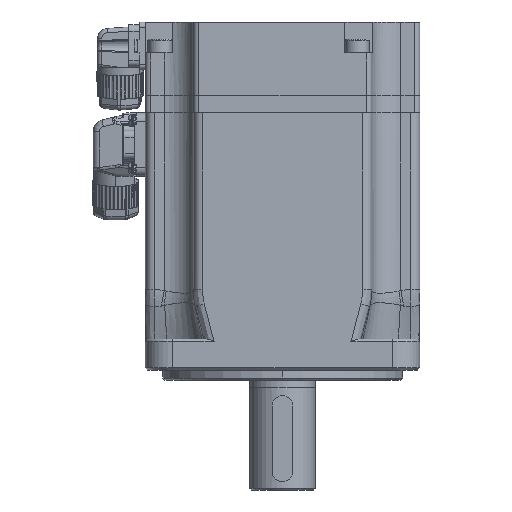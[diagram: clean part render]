
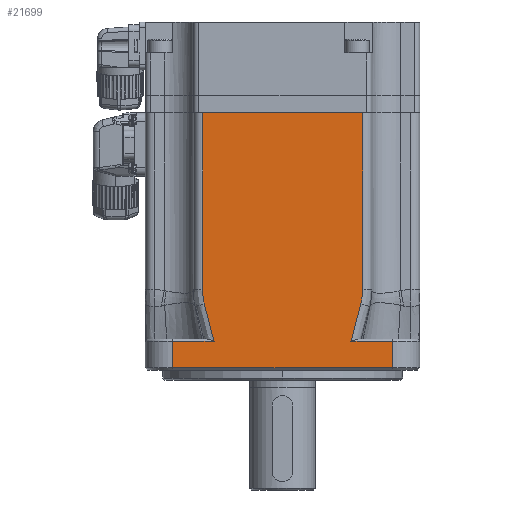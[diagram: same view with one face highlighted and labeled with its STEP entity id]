
A CAD part, left-side view. The second image highlights one B-rep face of the part: STEP entity #21699.
In plain terms, the highlighted planar face has unit normal (-1, 0, 0).
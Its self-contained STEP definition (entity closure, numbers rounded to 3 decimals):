
#94 = ORIENTED_EDGE ( 'NONE', *, *, #15060, .F. ) ;
#924 = CARTESIAN_POINT ( 'NONE',  ( -40., 40., -36. ) ) ;
#4643 = CARTESIAN_POINT ( 'NONE',  ( -40., 23.213, -14.542 ) ) ;
#4820 = EDGE_CURVE ( 'NONE', #63381, #49767, #98715, .T. ) ;
#5954 = DIRECTION ( 'NONE',  ( 0., 0., -1. ) ) ;
#8057 = EDGE_LOOP ( 'NONE', ( #41085, #88585, #107773, #66446, #108582, #26712, #8788, #70355, #94, #118312, #36447, #27845 ) ) ;
#8526 = CARTESIAN_POINT ( 'NONE',  ( -40., -23.333, -12.461 ) ) ;
#8788 = ORIENTED_EDGE ( 'NONE', *, *, #37536, .T. ) ;
#10516 = EDGE_CURVE ( 'NONE', #118963, #107304, #67612, .T. ) ;
#11054 = EDGE_CURVE ( 'NONE', #125722, #63381, #43774, .T. ) ;
#13150 = AXIS2_PLACEMENT_3D ( 'NONE', #924, #40619, #70541 ) ;
#15060 = EDGE_CURVE ( 'NONE', #85419, #94679, #125717, .T. ) ;
#18299 = CARTESIAN_POINT ( 'NONE',  ( -40., -22.844, -16.56 ) ) ;
#21699 = ADVANCED_FACE ( 'NONE', ( #120027 ), #99855, .T. ) ;
#21936 = CARTESIAN_POINT ( 'NONE',  ( -40., 20.29, -26.414 ) ) ;
#23086 = LINE ( 'NONE', #92107, #56533 ) ;
#23566 = LINE ( 'NONE', #93227, #108630 ) ;
#23623 = CARTESIAN_POINT ( 'NONE',  ( -40., -20.29, -26.414 ) ) ;
#24833 = CARTESIAN_POINT ( 'NONE',  ( -40., 22.972, -16.014 ) ) ;
#25476 = CARTESIAN_POINT ( 'NONE',  ( -40., 23.333, -12.71 ) ) ;
#26429 = CARTESIAN_POINT ( 'NONE',  ( -40., 32., -36. ) ) ;
#26712 = ORIENTED_EDGE ( 'NONE', *, *, #102206, .T. ) ;
#26765 = CARTESIAN_POINT ( 'NONE',  ( -40., -23.333, 39. ) ) ;
#27845 = ORIENTED_EDGE ( 'NONE', *, *, #127024, .T. ) ;
#28571 = CARTESIAN_POINT ( 'NONE',  ( -40., 23.333, 39. ) ) ;
#29076 = DIRECTION ( 'NONE',  ( 0., 1., 0. ) ) ;
#30267 = DIRECTION ( 'NONE',  ( 0., -1., 0. ) ) ;
#30941 = EDGE_CURVE ( 'NONE', #33344, #94679, #98785, .T. ) ;
#31709 = CARTESIAN_POINT ( 'NONE',  ( -40., 22.782, -16.802 ) ) ;
#33271 = CARTESIAN_POINT ( 'NONE',  ( -40., 22.782, -16.802 ) ) ;
#33344 = VERTEX_POINT ( 'NONE', #99032 ) ;
#33651 = CARTESIAN_POINT ( 'NONE',  ( -40., -19.965, -27.667 ) ) ;
#33653 = DIRECTION ( 'NONE',  ( 0., 1., 0. ) ) ;
#34605 = CARTESIAN_POINT ( 'NONE',  ( -40., 23.112, -15.257 ) ) ;
#35319 = CARTESIAN_POINT ( 'NONE',  ( -40., -22.482, -17.962 ) ) ;
#36217 = VERTEX_POINT ( 'NONE', #69608 ) ;
#36447 = ORIENTED_EDGE ( 'NONE', *, *, #10516, .T. ) ;
#37536 = EDGE_CURVE ( 'NONE', #95677, #33344, #42547, .T. ) ;
#38988 = DIRECTION ( 'NONE',  ( 0., 0., -1. ) ) ;
#39133 = CARTESIAN_POINT ( 'NONE',  ( -40., -23.333, -12.735 ) ) ;
#40619 = DIRECTION ( 'NONE',  ( -1., 0., 0. ) ) ;
#41085 = ORIENTED_EDGE ( 'NONE', *, *, #11054, .T. ) ;
#42547 = B_SPLINE_CURVE_WITH_KNOTS ( 'NONE', 3,
 ( #43800, #23623, #43159, #104318, #35319, #101721 ),
 .UNSPECIFIED., .F., .F.,
 ( 4, 1, 1, 4 ),
 ( 0., 0.333, 0.667, 1. ),
 .UNSPECIFIED. ) ;
#43159 = CARTESIAN_POINT ( 'NONE',  ( -40., -20.933, -23.94 ) ) ;
#43176 = EDGE_CURVE ( 'NONE', #49767, #36217, #93522, .T. ) ;
#43774 = B_SPLINE_CURVE_WITH_KNOTS ( 'NONE', 3,
 ( #31709, #49942, #71401, #111108, #21936, #61631 ),
 .UNSPECIFIED., .F., .F.,
 ( 4, 1, 1, 4 ),
 ( 0., 0.333, 0.667, 1. ),
 .UNSPECIFIED. ) ;
#43800 = CARTESIAN_POINT ( 'NONE',  ( -40., -19.965, -27.667 ) ) ;
#44092 = VECTOR ( 'NONE', #29076, 1000. ) ;
#44382 = CARTESIAN_POINT ( 'NONE',  ( -40., 22.782, -16.802 ) ) ;
#47624 = CARTESIAN_POINT ( 'NONE',  ( -40., -32., -35.333 ) ) ;
#47952 = CARTESIAN_POINT ( 'NONE',  ( -40., 40., -27.667 ) ) ;
#49695 = VECTOR ( 'NONE', #116646, 1000. ) ;
#49767 = VERTEX_POINT ( 'NONE', #83948 ) ;
#49942 = CARTESIAN_POINT ( 'NONE',  ( -40., 22.482, -17.962 ) ) ;
#51003 = CARTESIAN_POINT ( 'NONE',  ( -40., 23.333, -12.461 ) ) ;
#53122 = CARTESIAN_POINT ( 'NONE',  ( -40., 23.333, 39. ) ) ;
#53168 = CARTESIAN_POINT ( 'NONE',  ( -40., 40., -27.667 ) ) ;
#54764 = CARTESIAN_POINT ( 'NONE',  ( -40., 22.851, -16.536 ) ) ;
#55322 = CARTESIAN_POINT ( 'NONE',  ( -40., -23.333, 39. ) ) ;
#55722 = DIRECTION ( 'NONE',  ( 0., 0., -1. ) ) ;
#56533 = VECTOR ( 'NONE', #120748, 1000. ) ;
#57357 = CARTESIAN_POINT ( 'NONE',  ( -40., -23.083, -15.421 ) ) ;
#61631 = CARTESIAN_POINT ( 'NONE',  ( -40., 19.965, -27.667 ) ) ;
#63381 = VERTEX_POINT ( 'NONE', #92859 ) ;
#65384 = VECTOR ( 'NONE', #5954, 1000. ) ;
#65796 = CARTESIAN_POINT ( 'NONE',  ( -40., 23.322, -13.196 ) ) ;
#66423 = CARTESIAN_POINT ( 'NONE',  ( -40., 23.333, -12.461 ) ) ;
#66446 = ORIENTED_EDGE ( 'NONE', *, *, #79995, .T. ) ;
#66528 = CARTESIAN_POINT ( 'NONE',  ( -40., -32., -35.333 ) ) ;
#67612 = LINE ( 'NONE', #28571, #94190 ) ;
#68395 = CARTESIAN_POINT ( 'NONE',  ( -40., -23.267, -14.039 ) ) ;
#69608 = CARTESIAN_POINT ( 'NONE',  ( -40., 32., -35.333 ) ) ;
#70355 = ORIENTED_EDGE ( 'NONE', *, *, #30941, .T. ) ;
#70541 = DIRECTION ( 'NONE',  ( 0., 0., 1. ) ) ;
#71401 = CARTESIAN_POINT ( 'NONE',  ( -40., 21.874, -20.314 ) ) ;
#78616 = CARTESIAN_POINT ( 'NONE',  ( -40., -23.333, -12.461 ) ) ;
#78839 = VERTEX_POINT ( 'NONE', #47624 ) ;
#79995 = EDGE_CURVE ( 'NONE', #36217, #78839, #86116, .T. ) ;
#83948 = CARTESIAN_POINT ( 'NONE',  ( -40., 32., -27.667 ) ) ;
#85419 = VERTEX_POINT ( 'NONE', #55322 ) ;
#86116 = LINE ( 'NONE', #66528, #49695 ) ;
#87319 = CARTESIAN_POINT ( 'NONE',  ( -40., -23.32, -13.27 ) ) ;
#88585 = ORIENTED_EDGE ( 'NONE', *, *, #4820, .T. ) ;
#92107 = CARTESIAN_POINT ( 'NONE',  ( -40., -32., -36. ) ) ;
#92859 = CARTESIAN_POINT ( 'NONE',  ( -40., 19.965, -27.667 ) ) ;
#93227 = CARTESIAN_POINT ( 'NONE',  ( -40., -23.333, 39. ) ) ;
#93522 = LINE ( 'NONE', #26429, #107710 ) ;
#93840 = CARTESIAN_POINT ( 'NONE',  ( -40., 23.28, -13.871 ) ) ;
#94190 = VECTOR ( 'NONE', #38988, 1000. ) ;
#94679 = VERTEX_POINT ( 'NONE', #78616 ) ;
#95677 = VERTEX_POINT ( 'NONE', #33651 ) ;
#97706 = CARTESIAN_POINT ( 'NONE',  ( -40., -23.186, -14.756 ) ) ;
#98715 = LINE ( 'NONE', #47952, #44092 ) ;
#98785 = B_SPLINE_CURVE_WITH_KNOTS ( 'NONE', 3,
 ( #106846, #18299, #107478, #57357, #97706, #68395, #87319, #39133, #8526 ),
 .UNSPECIFIED., .F., .F.,
 ( 4, 1, 1, 1, 1, 1, 4 ),
 ( 0., 0.167, 0.333, 0.5, 0.667, 0.833, 1. ),
 .UNSPECIFIED. ) ;
#99032 = CARTESIAN_POINT ( 'NONE',  ( -40., -22.782, -16.802 ) ) ;
#99436 = EDGE_CURVE ( 'NONE', #78839, #124608, #23086, .T. ) ;
#99855 = PLANE ( 'NONE',  #13150 ) ;
#101721 = CARTESIAN_POINT ( 'NONE',  ( -40., -22.782, -16.802 ) ) ;
#102206 = EDGE_CURVE ( 'NONE', #124608, #95677, #122832, .T. ) ;
#104318 = CARTESIAN_POINT ( 'NONE',  ( -40., -21.874, -20.314 ) ) ;
#105612 = CARTESIAN_POINT ( 'NONE',  ( -40., -32., -27.667 ) ) ;
#106846 = CARTESIAN_POINT ( 'NONE',  ( -40., -22.782, -16.802 ) ) ;
#107304 = VERTEX_POINT ( 'NONE', #51003 ) ;
#107478 = CARTESIAN_POINT ( 'NONE',  ( -40., -22.955, -16.086 ) ) ;
#107710 = VECTOR ( 'NONE', #55722, 1000. ) ;
#107773 = ORIENTED_EDGE ( 'NONE', *, *, #43176, .T. ) ;
#108582 = ORIENTED_EDGE ( 'NONE', *, *, #99436, .T. ) ;
#108630 = VECTOR ( 'NONE', #30267, 1000. ) ;
#111108 = CARTESIAN_POINT ( 'NONE',  ( -40., 20.933, -23.94 ) ) ;
#116646 = DIRECTION ( 'NONE',  ( 0., -1., 0. ) ) ;
#118312 = ORIENTED_EDGE ( 'NONE', *, *, #123138, .F. ) ;
#118963 = VERTEX_POINT ( 'NONE', #53122 ) ;
#120027 = FACE_OUTER_BOUND ( 'NONE', #8057, .T. ) ;
#120748 = DIRECTION ( 'NONE',  ( 0., 0., 1. ) ) ;
#121487 = VECTOR ( 'NONE', #33653, 1000. ) ;
#122832 = LINE ( 'NONE', #53168, #121487 ) ;
#123138 = EDGE_CURVE ( 'NONE', #118963, #85419, #23566, .T. ) ;
#124608 = VERTEX_POINT ( 'NONE', #105612 ) ;
#124625 = B_SPLINE_CURVE_WITH_KNOTS ( 'NONE', 3,
 ( #66423, #25476, #65796, #93840, #4643, #34605, #24833, #54764, #44382 ),
 .UNSPECIFIED., .F., .F.,
 ( 4, 1, 1, 1, 1, 1, 4 ),
 ( 0., 0.167, 0.333, 0.5, 0.667, 0.833, 1. ),
 .UNSPECIFIED. ) ;
#125717 = LINE ( 'NONE', #26765, #65384 ) ;
#125722 = VERTEX_POINT ( 'NONE', #33271 ) ;
#127024 = EDGE_CURVE ( 'NONE', #107304, #125722, #124625, .T. ) ;
